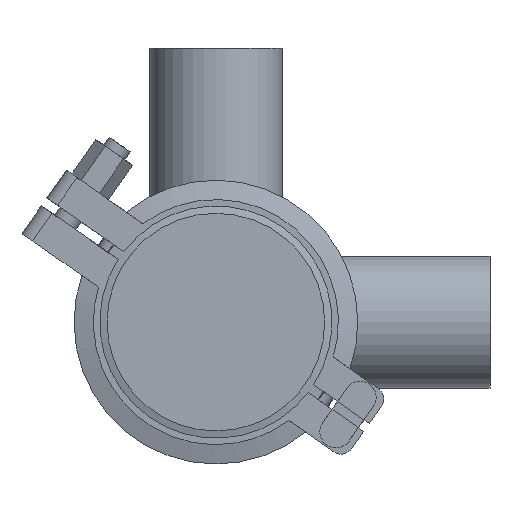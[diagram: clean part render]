
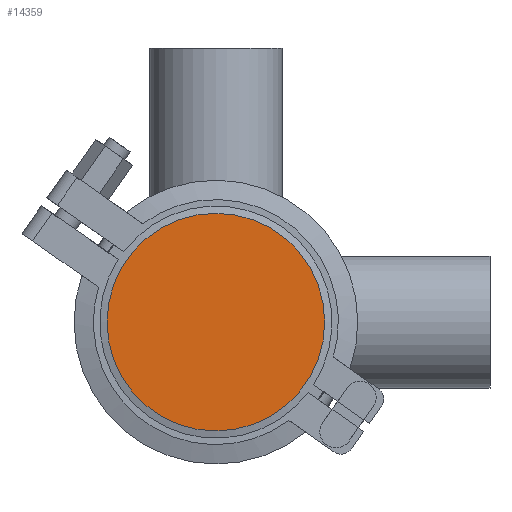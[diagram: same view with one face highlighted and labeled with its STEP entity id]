
A CAD part, front view. The second image highlights one B-rep face of the part: STEP entity #14359.
In plain terms, the highlighted planar face has unit normal (0, -1, 0).
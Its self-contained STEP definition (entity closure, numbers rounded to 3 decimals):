
#1193 = DIRECTION ( 'NONE',  ( 0., 0., -1. ) ) ;
#3280 = ORIENTED_EDGE ( 'NONE', *, *, #19262, .F. ) ;
#3430 = CARTESIAN_POINT ( 'NONE',  ( 0., 0., 33.75 ) ) ;
#3657 = DIRECTION ( 'NONE',  ( 0., 0., 1. ) ) ;
#4324 = CARTESIAN_POINT ( 'NONE',  ( -33.75, 0., 0. ) ) ;
#6982 = EDGE_LOOP ( 'NONE', ( #3280 ) ) ;
#6991 = CARTESIAN_POINT ( 'NONE',  ( 0., 0., 0. ) ) ;
#7456 = PLANE ( 'NONE',  #12885 ) ;
#12885 = AXIS2_PLACEMENT_3D ( 'NONE', #4324, #15143, #1193 ) ;
#13268 = CIRCLE ( 'NONE', #15200, 33.75 ) ;
#13354 = FACE_OUTER_BOUND ( 'NONE', #6982, .T. ) ;
#14359 = ADVANCED_FACE ( 'NONE', ( #13354 ), #7456, .T. ) ;
#14547 = VERTEX_POINT ( 'NONE', #3430 ) ;
#15143 = DIRECTION ( 'NONE',  ( 0., -1., 0. ) ) ;
#15200 = AXIS2_PLACEMENT_3D ( 'NONE', #6991, #19250, #3657 ) ;
#19250 = DIRECTION ( 'NONE',  ( 0., 1., 0. ) ) ;
#19262 = EDGE_CURVE ( 'NONE', #14547, #14547, #13268, .T. ) ;
